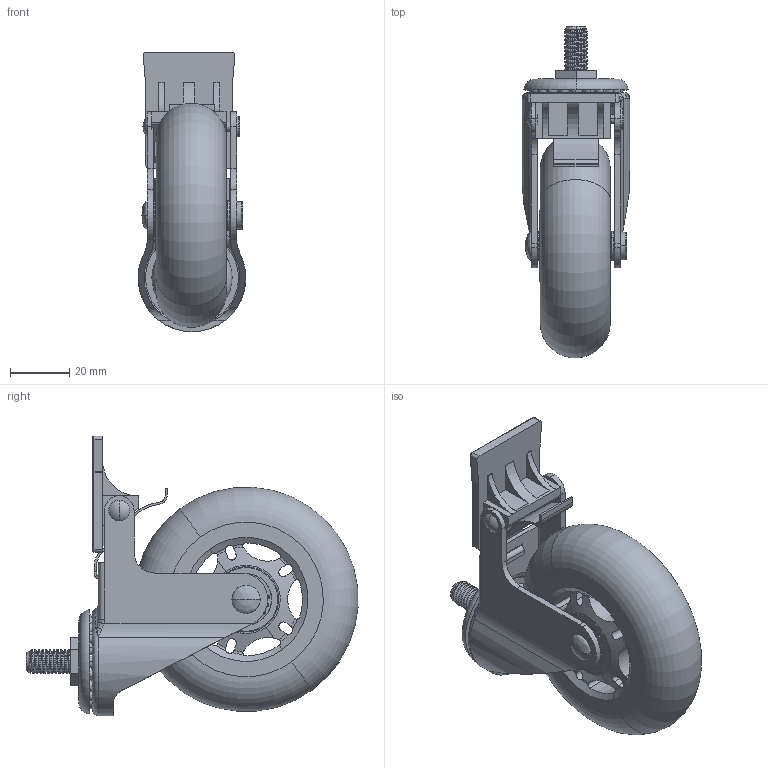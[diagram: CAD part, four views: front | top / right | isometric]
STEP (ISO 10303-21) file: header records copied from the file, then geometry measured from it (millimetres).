
FILE_DESCRIPTION (( 'STEP AP203' ), '1' );
FILE_NAME ('3寸絲扣中煞水晶輪M8X15.STEP', '2025-08-21T05:10:51', ( '' ), ( '' ), 'SwSTEP 2.0', 'SolidWorks 2021', '' );
FILE_SCHEMA (( 'CONFIG_CONTROL_DESIGN' ));
Length unit declared in the file: millimetre
Products named in the file (10): zg^复件 3___________3寸絲扣中煞水晶輪M8X15; 复件 __________^3寸絲扣中煞水晶輪M8X15; 复件 3______^3寸絲扣中煞水晶輪M8X15; 3寸絲扣中煞水晶輪M8X15; 复件 _____T__^3寸絲扣中煞水晶輪M8X15; 复件 ________^3寸絲扣中煞水晶輪M8X15; 3________^复件 3___________3寸絲扣中煞水晶輪M8X15; 608zz_S__^复件 3___________3寸絲扣中煞水晶輪M8X15; 复件 3___z________________^3寸絲扣中煞水晶輪M8X15; 复件 3__________^3寸絲扣中煞水晶輪M8X15
Assembly tree (10 placements, depth 3):
  3寸絲扣中煞水晶輪M8X15
    复件 3__________^3寸絲扣中煞水晶輪M8X15
      3________^复件 3___________3寸絲扣中煞水晶輪M8X15
      zg^复件 3___________3寸絲扣中煞水晶輪M8X15
      608zz_S__^复件 3___________3寸絲扣中煞水晶輪M8X15  x2
    复件 3___z________________^3寸絲扣中煞水晶輪M8X15
    复件 3______^3寸絲扣中煞水晶輪M8X15
    复件 __________^3寸絲扣中煞水晶輪M8X15
    复件 ________^3寸絲扣中煞水晶輪M8X15
    复件 _____T__^3寸絲扣中煞水晶輪M8X15
Bounding box: 36.25 x 111.66 x 94 mm (x, y, z)
Volume: 105099.8 mm3; surface area: 46732.2 mm2
Topology: 11 solids, 13 shells, 944 faces, 2859 edges, 1803 vertices
Faces by surface type: plane 272, cylinder 206, sphere 172, torus 152, bspline 128, cone 14
Entity records: 32641 total; most frequent: CARTESIAN_POINT 14380, ORIENTED_EDGE 3862, DIRECTION 3308, EDGE_CURVE 1931, AXIS2_PLACEMENT_3D 1339, VERTEX_POINT 1263, EDGE_LOOP 792, ADVANCED_FACE 703
